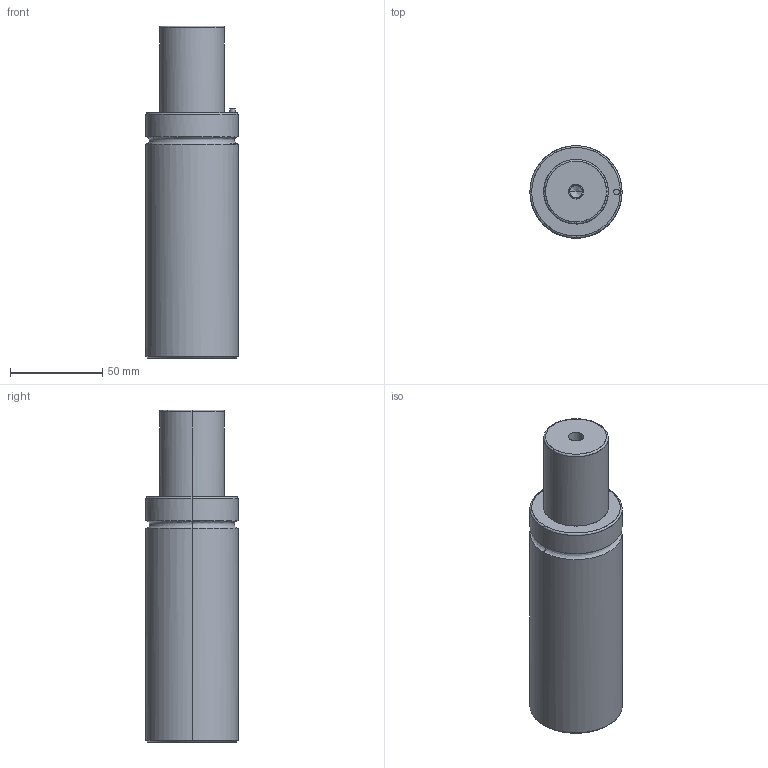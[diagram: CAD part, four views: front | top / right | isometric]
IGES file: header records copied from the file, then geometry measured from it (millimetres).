
Global section: file name: E:\UnigraphicsGraphicData\MISUMI_PRESS-PARTS\IGES\3d_gsm50-45_03913_r00.igs; native system: NX V5.0; preprocessor: UGS NX IGES V5.0; author: MISUMI; date: 20110105.160816; units: millimetre
Bounding box: 50 x 49.97 x 180 mm (x, y, z)
Surface area: 31548.9 mm2 (no closed solid volume)
Topology: 0 solids, 0 shells, 48 faces, 336 edges, 328 vertices
Faces by surface type: bspline 48
